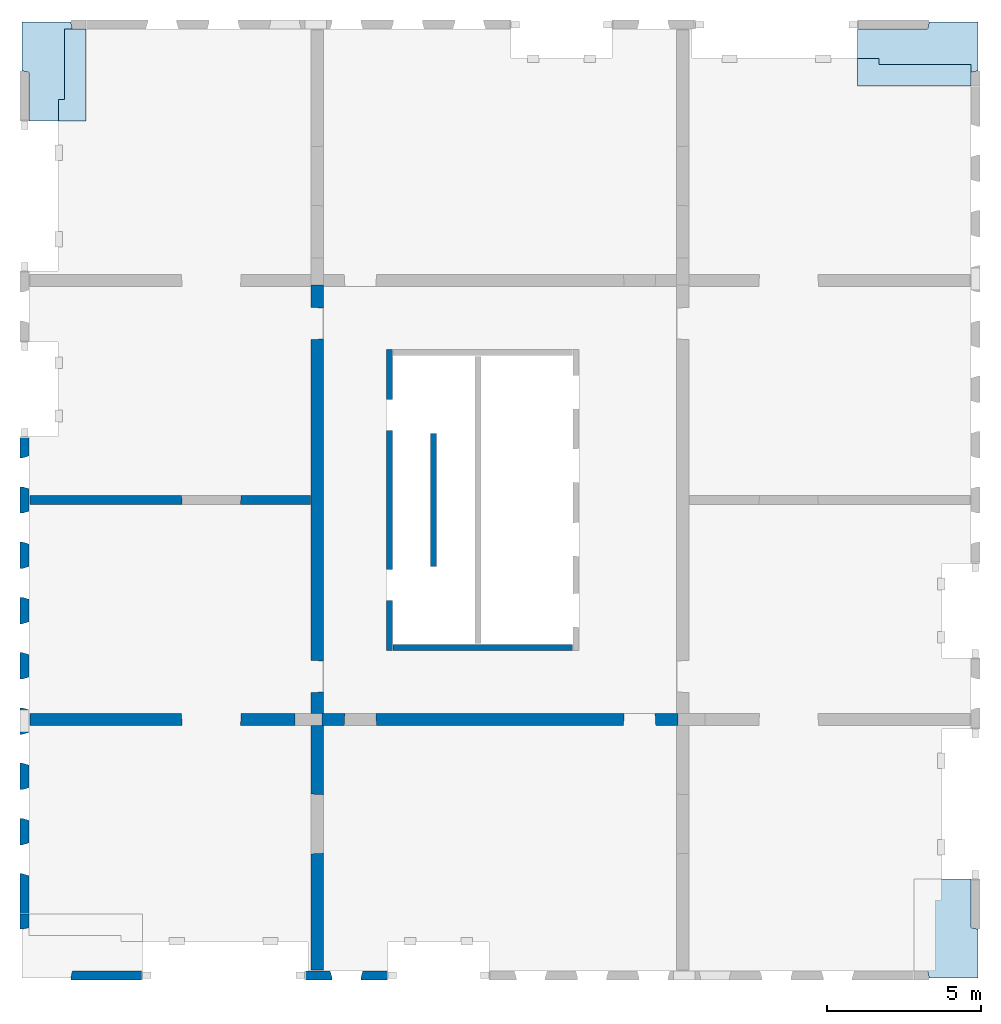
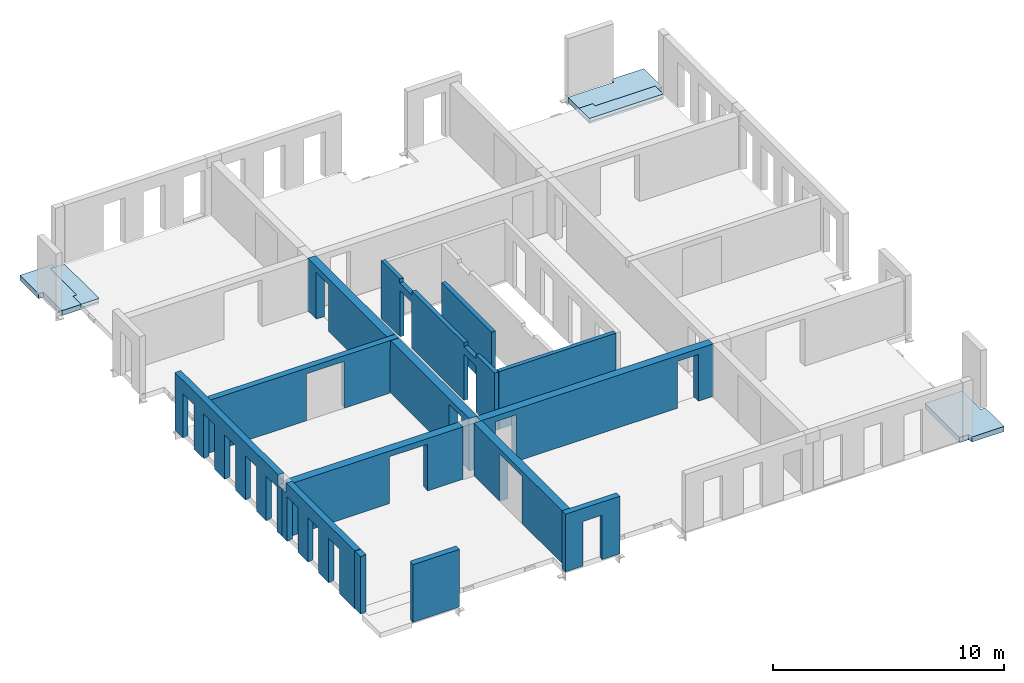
# One storey, part 2 of 4: 13 walls, 5 slabs, 26 openings.
"""IFC2X3 building model written with IfcOpenShell, lengths in millimetres."""

from ifc_helpers import new_model, entity, si_unit, converted_unit, derived_unit, direction, frame, frame_2d, origin, place, context, subcontext, project, spatial, polyline, rectangle, outline, extrude, faceted_brep, material, layer, layer_set, layer_usage, type_object, element, save


model = new_model("IFC2X3")

# Units and contexts
model_context = context("Model", 3, precision=0.01, world=origin(), true_north=direction((6.12303176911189e-17, 1.0)))
body_context = subcontext(model_context, "Body", "Model", "MODEL_VIEW")
ifc_project = project(units=[si_unit("LENGTHUNIT", "METRE", prefix="MILLI"), si_unit("AREAUNIT", "SQUARE_METRE"), si_unit("VOLUMEUNIT", "CUBIC_METRE"), converted_unit("PLANEANGLEUNIT", "DEGREE", entity("IfcRatioMeasure", 0.0174532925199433), si_unit("PLANEANGLEUNIT", "RADIAN"), dimensions=[0, 0, 0, 0, 0, 0, 0]), si_unit("MASSUNIT", "GRAM", prefix="KILO"), derived_unit("MASSDENSITYUNIT", [(si_unit("MASSUNIT", "GRAM", prefix="KILO"), 1), (si_unit("LENGTHUNIT", "METRE"), -3)]), si_unit("TIMEUNIT", "SECOND"), si_unit("FREQUENCYUNIT", "HERTZ"), si_unit("THERMODYNAMICTEMPERATUREUNIT", "DEGREE_CELSIUS"), derived_unit("THERMALTRANSMITTANCEUNIT", [(si_unit("MASSUNIT", "GRAM", prefix="KILO"), 1), (si_unit("THERMODYNAMICTEMPERATUREUNIT", "KELVIN"), -1), (si_unit("TIMEUNIT", "SECOND"), -3)]), derived_unit("VOLUMETRICFLOWRATEUNIT", [(si_unit("LENGTHUNIT", "METRE"), 3), (si_unit("TIMEUNIT", "SECOND"), -1)]), si_unit("ELECTRICCURRENTUNIT", "AMPERE"), si_unit("ELECTRICVOLTAGEUNIT", "VOLT"), si_unit("POWERUNIT", "WATT"), si_unit("FORCEUNIT", "NEWTON", prefix="KILO"), si_unit("ILLUMINANCEUNIT", "LUX"), si_unit("LUMINOUSFLUXUNIT", "LUMEN"), si_unit("LUMINOUSINTENSITYUNIT", "CANDELA"), derived_unit("USERDEFINED", [(si_unit("MASSUNIT", "GRAM", prefix="KILO"), -1), (si_unit("LENGTHUNIT", "METRE"), -2), (si_unit("TIMEUNIT", "SECOND"), 3), (si_unit("LUMINOUSFLUXUNIT", "LUMEN"), 1)]), derived_unit("LINEARVELOCITYUNIT", [(si_unit("LENGTHUNIT", "METRE"), 1), (si_unit("TIMEUNIT", "SECOND"), -1)]), si_unit("PRESSUREUNIT", "PASCAL"), derived_unit("USERDEFINED", [(si_unit("LENGTHUNIT", "METRE"), -2), (si_unit("MASSUNIT", "GRAM", prefix="KILO"), 1), (si_unit("TIMEUNIT", "SECOND"), -2)])], contexts=[model_context])

# Site, building, storey
site_placement = place(None, origin())
site = spatial("IfcSite", under=ifc_project, at=site_placement, Name="Default", CompositionType="ELEMENT")
building_placement = place(site_placement, origin())
building = spatial("IfcBuilding", under=site, at=building_placement, Name="niet gebruiken", CompositionType="ELEMENT")
storey_placement = place(building_placement, frame((0.0, 0.0, 66960.0)))
storey = spatial("IfcBuildingStorey", under=building, at=storey_placement, Name="21 eenentwintigste verdieping", CompositionType="ELEMENT", Elevation=66960.0000000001)

# Slabs
ifc_material_1 = material(Name="NLRS_f2_beton prefab")
ifc_layer_1 = layer(ifc_material_1, 270.0)
ifc_layer_set_1 = layer_set([ifc_layer_1], Name="Floor:NLRS_23.22_FL_beton prefab d=270 3D element_gen")
ifc_layer_usage_1 = layer_usage(ifc_layer_set_1, "AXIS3", "POSITIVE", 0.0)
slab_1_placement = place(storey_placement, origin())
element("IfcSlab", 1, at=slab_1_placement, inside=storey, material=ifc_layer_usage_1, Name="Floor:NLRS_23.22_FL_beton prefab d=270 3D element_gen", ObjectType="Floor:NLRS_23.22_FL_beton prefab d=270 3D element_gen", PredefinedType="LANDING", context=body_context, shape_type="SweptSolid", body=[
    extrude(outline(polyline([(-322.675940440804, -982.471394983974), (1267.47139498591, -982.471394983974), (1267.47139498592, 607.675940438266), (1034.47139498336, 655.152429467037), (1034.47139498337, 1100.5286050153), (-1955.52860501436, 1100.52860501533), (-1955.52860501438, -749.471394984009), (-370.152429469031, -749.471394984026), (-322.675940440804, -982.471394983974)])), frame((127169.471394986, 31795.5286050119, -90.0), z_axis=(0.0, 0.0, -1.0), x_axis=(0.0, 1.0, 0.0)), (0.0, 0.0, 1.0), 269.999999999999),
])
ifc_material_2 = material(Name="NLRS_f2_beton ihwg")
ifc_layer_2 = layer(ifc_material_2, 170.0)
ifc_layer_set_2 = layer_set([ifc_layer_2], Name="Floor:NLRS_23.21_FL_beton ihwg d=170_gen")
ifc_layer_usage_2 = layer_usage(ifc_layer_set_2, "AXIS3", "POSITIVE", 0.0)
slab_2_placement = place(storey_placement, origin())
element("IfcSlab", 2, at=slab_2_placement, inside=storey, material=ifc_layer_usage_2, Name="Floor:NLRS_23.21_FL_beton ihwg d=170_gen", ObjectType="Floor:NLRS_23.21_FL_beton ihwg d=170_gen", PredefinedType="FLOOR", context=body_context, shape_type="SweptSolid", body=[
    extrude(outline(polyline([(-1230.0, -366.666666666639), (-530.0, -366.666666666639), (-530.0, -166.66666666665), (1760.0, -166.666666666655), (1760.0, 533.333333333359), (-1230.0, 533.333333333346), (-1230.0, -366.666666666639)])), frame((127736.666666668, 31070.0, -90.0), z_axis=(0.0, 0.0, -1.0), x_axis=(0.0, 1.0, 0.0)), (0.0, 0.0, 1.0), 169.999999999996),
])
ifc_layer_usage_3 = layer_usage(ifc_layer_set_1, "AXIS3", "POSITIVE", 0.0)
slab_3_placement = place(storey_placement, origin())
element("IfcSlab", 3, at=slab_3_placement, inside=storey, material=ifc_layer_usage_3, Name="Floor:NLRS_23.22_FL_beton prefab d=270 3D element_gen", ObjectType="Floor:NLRS_23.22_FL_beton prefab d=270 3D element_gen", PredefinedType="LANDING", context=body_context, shape_type="SweptSolid", body=[
    extrude(outline(polyline([(-1034.47139498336, -1100.52860501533), (1955.52860501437, -1100.52860501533), (1955.52860501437, 749.471394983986), (370.152429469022, 749.471394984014), (322.675940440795, 982.471394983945), (-1267.47139498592, 982.471394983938), (-1267.47139498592, -607.675940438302), (-1034.47139498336, -655.152429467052), (-1034.47139498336, -1100.52860501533)])), frame((156330.528605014, 3204.47139498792, -90.0), z_axis=(0.0, 0.0, -1.0), x_axis=(0.0, 1.0, 0.0)), (0.0, 0.0, 1.0), 269.999999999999),
])
ifc_layer_usage_4 = layer_usage(ifc_layer_set_1, "AXIS3", "POSITIVE", 0.0)
slab_4_placement = place(storey_placement, origin())
element("IfcSlab", 4, at=slab_4_placement, inside=storey, material=ifc_layer_usage_4, Name="Floor:NLRS_23.22_FL_beton prefab d=270 3D element_gen", ObjectType="Floor:NLRS_23.22_FL_beton prefab d=270 3D element_gen", PredefinedType="LANDING", context=body_context, shape_type="SweptSolid", body=[
    extrude(outline(polyline([(-1100.52860501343, -2480.52860501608), (749.471394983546, -2480.52860501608), (749.471394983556, -195.152429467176), (982.471394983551, -147.675940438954), (982.471394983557, 1442.47139498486), (-607.675940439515, 1442.47139498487), (-655.152429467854, 1209.47139498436), (-1100.52860501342, 1209.47139498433), (-1100.52860501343, -2480.52860501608)])), frame((155870.528605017, 32080.5286050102, -90.0), z_axis=(0.0, 0.0, -1.0), x_axis=(0.0, 1.0, 0.0)), (0.0, 0.0, 1.0), 269.999999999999),
])
ifc_layer_usage_5 = layer_usage(ifc_layer_set_2, "AXIS3", "POSITIVE", 0.0)
slab_5_placement = place(storey_placement, origin())
element("IfcSlab", 5, at=slab_5_placement, inside=storey, material=ifc_layer_usage_5, Name="Floor:NLRS_23.21_FL_beton ihwg d=170_gen", ObjectType="Floor:NLRS_23.21_FL_beton ihwg d=170_gen", PredefinedType="FLOOR", context=body_context, shape_type="SweptSolid", body=[
    extrude(outline(polyline([(-533.333333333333, -1463.33333333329), (366.666666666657, -1463.33333333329), (366.666666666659, -763.333333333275), (166.66666666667, -763.333333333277), (166.666666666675, 2226.66666666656), (-533.333333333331, 2226.66666666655), (-533.333333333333, -1463.33333333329)])), frame((154853.333333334, 31513.3333333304, -90.0), z_axis=(0.0, 0.0, -1.0), x_axis=(0.0, 1.0, 0.0)), (0.0, 0.0, 1.0), 169.999999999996),
])

# Wall, openings
ifc_layer_3 = layer(ifc_material_1, 200.0)
ifc_layer_set_3 = layer_set([ifc_layer_3], Name="Basic Wall:NLRS_22.21_WA_beton prefab d=200_gen")
ifc_layer_usage_6 = layer_usage(ifc_layer_set_3, "AXIS2", "NEGATIVE", 100.0)
wall_type_1 = type_object("IfcWallType", Name="Basic Wall:NLRS_22.21_WA_beton prefab d=200_gen", PredefinedType="STANDARD", material=ifc_layer_set_3)
wall_1_placement = place(storey_placement, frame((138150.0, 22400.0, -50.0), z_axis=(0.0, 0.0, 1.0), x_axis=(0.0, -1.0, 0.0)))
wall_1 = element("IfcWallStandardCase", 6, at=wall_1_placement, inside=storey, type_object=wall_type_1, material=ifc_layer_usage_6, Name="Basic Wall:NLRS_22.21_WA_beton prefab d=200_gen", ObjectType="Basic Wall:NLRS_22.21_WA_beton prefab d=200_gen", context=body_context, shape_type="SweptSolid", body=[
    extrude(rectangle(XDim=9800.0, YDim=199.999999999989, at=frame_2d((4900.0, 3.76587649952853e-13), x_axis=(-1.0, 0.0))), origin(), (0.0, 0.0, 1.0), 3040.0),
])
opening_1_placement = place(wall_1_placement, origin())
element("IfcOpeningElement", 7, at=opening_1_placement, cuts=wall_1, Name="Basic Wall:NLRS_22.21_WA_beton prefab d=200_gen", ObjectType="Opening", context=body_context, shape_type="SweptSolid", body=[
    extrude(rectangle(XDim=199.999999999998, YDim=1044.0, at=frame_2d((4.33431068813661e-12, 0.0), x_axis=(1.0, 0.0))), frame((7672.0, -100.0, 2940.0), z_axis=(0.0, 1.0, 0.0), x_axis=(0.0, 0.0, -1.0)), (0.0, 0.0, 1.0), 199.999999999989),
])
opening_2_placement = place(wall_1_placement, origin())
element("IfcOpeningElement", 8, at=opening_2_placement, cuts=wall_1, Name="Basic Wall:NLRS_22.21_WA_beton prefab d=200_gen", ObjectType="Opening", context=body_context, shape_type="SweptSolid", body=[
    extrude(rectangle(XDim=199.999999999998, YDim=1044.0, at=frame_2d((4.33431068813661e-12, 2.1600499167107e-12), x_axis=(1.0, 0.0))), frame((2128.0, -100.0, 2940.0), z_axis=(0.0, 1.0, 0.0), x_axis=(0.0, 0.0, -1.0)), (0.0, 0.0, 1.0), 199.999999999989),
])
opening_3_placement = place(wall_1_placement, origin())
element("IfcOpeningElement", 9, at=opening_3_placement, cuts=wall_1, Name="Basic Wall:NLRS_22.21_WA_beton prefab d=200_gen", ObjectType="Opening", context=body_context, shape_type="SweptSolid", body=[
    extrude(rectangle(XDim=2435.00000000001, YDim=1015.99999999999, at=frame_2d((-4.32009983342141e-12, 1.10844666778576e-12), x_axis=(1.0, 0.0))), frame((7672.0, -100.0, 1217.50000000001), z_axis=(0.0, 1.0, 0.0), x_axis=(0.0, 0.0, -1.0)), (0.0, 0.0, 1.0), 199.999999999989),
])
opening_4_placement = place(wall_1_placement, origin())
element("IfcOpeningElement", 10, at=opening_4_placement, cuts=wall_1, Name="Basic Wall:NLRS_22.21_WA_beton prefab d=200_gen", ObjectType="Opening", context=body_context, shape_type="SweptSolid", body=[
    extrude(rectangle(XDim=2435.00000000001, YDim=1015.99999999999, at=frame_2d((-4.32009983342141e-12, -2.18847162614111e-12), x_axis=(1.0, 0.0))), frame((2128.0, -100.0, 1217.50000000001), z_axis=(0.0, 1.0, 0.0), x_axis=(0.0, 0.0, -1.0)), (0.0, 0.0, 1.0), 199.999999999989),
])

# Walls
ifc_layer_usage_7 = layer_usage(ifc_layer_set_3, "AXIS2", "NEGATIVE", 100.0)
wall_2_placement = place(storey_placement, frame((139590.0, 19660.0, -50.0), z_axis=(0.0, 0.0, 1.0), x_axis=(0.0, -1.0, 0.0)))
element("IfcWallStandardCase", 11, at=wall_2_placement, inside=storey, type_object=wall_type_1, material=ifc_layer_usage_7, Name="Basic Wall:NLRS_22.21_WA_beton prefab d=200_gen", ObjectType="Basic Wall:NLRS_22.21_WA_beton prefab d=200_gen", context=body_context, shape_type="SweptSolid", body=[
    extrude(rectangle(XDim=4320.00000000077, YDim=199.999999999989, at=frame_2d((2160.00000000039, 0.0), x_axis=(-1.0, 0.0))), origin(), (0.0, 0.0, 1.0), 3040.0),
])
ifc_layer_usage_8 = layer_usage(ifc_layer_set_3, "AXIS2", "NEGATIVE", 100.0)
wall_3_placement = place(storey_placement, frame((138270.0, 12700.0, -50.0)))
element("IfcWallStandardCase", 12, at=wall_3_placement, inside=storey, type_object=wall_type_1, material=ifc_layer_usage_8, Name="Basic Wall:NLRS_22.21_WA_beton prefab d=200_gen", ObjectType="Basic Wall:NLRS_22.21_WA_beton prefab d=200_gen", context=body_context, shape_type="SweptSolid", body=[
    extrude(rectangle(XDim=5839.99999999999, YDim=199.999999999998, at=frame_2d((2919.99999999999, -6.82121026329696e-13), x_axis=(-1.0, 0.0))), origin(), (0.0, 0.0, 1.0), 3040.0),
])

# Wall, openings
ifc_layer_4 = layer(ifc_material_1, 300.0)
ifc_layer_set_4 = layer_set([ifc_layer_4], Name="Basic Wall:NLRS_22.21_WA_beton prefab d=300_gen")
ifc_layer_usage_9 = layer_usage(ifc_layer_set_4, "AXIS2", "NEGATIVE", 150.0)
wall_type_2 = type_object("IfcWallType", Name="Basic Wall:NLRS_22.21_WA_beton prefab d=300_gen", PredefinedType="STANDARD", material=ifc_layer_set_4)
wall_4_placement = place(storey_placement, frame((126440.0, 17500.0, -70.0)))
wall_4 = element("IfcWallStandardCase", 13, at=wall_4_placement, inside=storey, type_object=wall_type_2, material=ifc_layer_usage_9, Name="Basic Wall:NLRS_22.21_WA_beton prefab d=300_gen", ObjectType="Basic Wall:NLRS_22.21_WA_beton prefab d=300_gen", context=body_context, shape_type="SweptSolid", body=[
    extrude(rectangle(XDim=9559.9999999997, YDim=300.000000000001, at=frame_2d((4779.99999999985, -5.54223333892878e-13), x_axis=(-1.0, 0.0))), origin(), (0.0, 0.0, 1.0), 2769.99999999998),
])
opening_5_placement = place(wall_4_placement, frame((4942.0, -150.0, 0.0)))
element("IfcOpeningElement", 14, at=opening_5_placement, cuts=wall_4, Name="Basic Wall:NLRS_22.21_WA_beton prefab d=300_gen", ObjectType="Opening", context=body_context, shape_type="Brep", body=[
    faceted_brep([(1918.0, 0.0, 2470.0), (18.0, 0.0, 2470.0), (18.0, 0.0, 0.0), (1918.0, 0.0, 0.0), (1936.0, 300.0, 2488.0), (1936.0, 300.0, 0.0), (0.0, 300.0, 0.0), (0.0, 300.0, 2488.0)], [[[0, 1, 2, 3]], [[4, 5, 6, 7]], [[4, 7, 1, 0]], [[7, 6, 2, 1]], [[6, 5, 3, 2]], [[5, 4, 0, 3]]]),
])
opening_6_placement = place(wall_4_placement, origin())
element("IfcOpeningElement", 15, at=opening_6_placement, cuts=wall_4, Name="Basic Wall:NLRS_22.21_WA_beton prefab d=300_gen", ObjectType="Opening", context=body_context, shape_type="SweptSolid", body=[
    extrude(rectangle(XDim=2439.99999999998, YDim=420.000000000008, at=frame_2d((0.0, 0.0), x_axis=(0.0, 1.0))), frame((9350.0, 150.0, 1220.0), z_axis=(0.0, -1.0, 0.0), x_axis=(1.0, 0.0, 0.0)), (0.0, 0.0, 1.0), 300.0),
])

# Wall, opening
ifc_layer_5 = layer(ifc_material_1, 400.0)
ifc_layer_set_5 = layer_set([ifc_layer_5], Name="Basic Wall:NLRS_22.21_WA_beton prefab d=400_gen")
ifc_layer_usage_10 = layer_usage(ifc_layer_set_5, "AXIS2", "NEGATIVE", 200.0)
wall_type_3 = type_object("IfcWallType", Name="Basic Wall:NLRS_22.21_WA_beton prefab d=400_gen", PredefinedType="STANDARD", material=ifc_layer_set_5)
wall_5_placement = place(storey_placement, frame((135800.0, 10150.0, -70.0), z_axis=(0.0, 0.0, 1.0), x_axis=(0.0, -1.0, 0.0)))
wall_5 = element("IfcWallStandardCase", 16, at=wall_5_placement, inside=storey, type_object=wall_type_3, material=ifc_layer_usage_10, Name="Basic Wall:NLRS_22.21_WA_beton prefab d=400_gen", ObjectType="Basic Wall:NLRS_22.21_WA_beton prefab d=400_gen", context=body_context, shape_type="SweptSolid", body=[
    extrude(rectangle(XDim=7959.99999999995, YDim=400.000000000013, at=frame_2d((3979.99999999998, 4.54747350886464e-13), x_axis=(-1.0, 0.0))), origin(), (0.0, 0.0, 1.0), 2770.00000000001),
])
opening_7_placement = place(wall_5_placement, frame((4174.0, -200.0, 0.0)))
element("IfcOpeningElement", 17, at=opening_7_placement, cuts=wall_5, Name="Basic Wall:NLRS_22.21_WA_beton prefab d=400_gen", ObjectType="Opening", context=body_context, shape_type="Brep", body=[
    faceted_brep([(-24.0, 400.0, 2470.0), (-24.0, 400.0, 0.0), (-1924.0, 400.0, 0.0), (-1924.0, 400.0, 2470.0), (0.0, 0.0, 2494.0), (-1948.0, 0.0, 2494.0), (-1948.0, 0.0, 0.0), (0.0, 0.0, 0.0)], [[[0, 1, 2, 3]], [[4, 5, 6, 7]], [[4, 0, 3, 5]], [[5, 3, 2, 6]], [[6, 2, 1, 7]], [[7, 1, 0, 4]]]),
])

# Wall, openings
ifc_layer_usage_11 = layer_usage(ifc_layer_set_5, "AXIS2", "NEGATIVE", 200.0)
wall_6_placement = place(storey_placement, frame((135948.750788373, 10350.0, -70.0)))
wall_6 = element("IfcWallStandardCase", 18, at=wall_6_placement, inside=storey, type_object=wall_type_3, material=ifc_layer_usage_11, Name="Basic Wall:NLRS_22.21_WA_beton prefab d=400_gen", ObjectType="Basic Wall:NLRS_22.21_WA_beton prefab d=400_gen", context=body_context, shape_type="SweptSolid", body=[
    extrude(rectangle(XDim=11601.2492116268, YDim=400.0, at=frame_2d((5800.62460581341, 1.70530256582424e-13), x_axis=(-1.0, 0.0))), origin(), (0.0, 0.0, 1.0), 2770.00000000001),
])
opening_8_placement = place(wall_6_placement, frame((727.249211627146, -200.0, 0.0)))
element("IfcOpeningElement", 19, at=opening_8_placement, cuts=wall_6, Name="Basic Wall:NLRS_22.21_WA_beton prefab d=400_gen", ObjectType="Opening", context=body_context, shape_type="Brep", body=[
    faceted_brep([(0.0, 0.0, 2472.0), (24.0, 400.0, 2448.0), (24.0, 400.0, 0.0), (0.0, 0.0, 0.0), (1030.0, 400.0, 0.0), (1054.0, 0.0, 0.0), (1030.0, 400.0, 2448.0), (1054.0, 0.0, 2472.0)], [[[0, 1, 2, 3]], [[3, 2, 4, 5]], [[6, 4, 2, 1]], [[7, 0, 3, 5]], [[7, 6, 1, 0]], [[5, 4, 6, 7]]]),
])
opening_9_placement = place(wall_6_placement, frame((9821.24921162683, -200.0, 0.0)))
element("IfcOpeningElement", 20, at=opening_9_placement, cuts=wall_6, Name="Basic Wall:NLRS_22.21_WA_beton prefab d=400_gen", ObjectType="Opening", context=body_context, shape_type="Brep", body=[
    faceted_brep([(0.0, 0.0, 2472.0), (24.0, 400.0, 2448.0), (24.0, 400.0, 0.0), (0.0, 0.0, 0.0), (1030.0, 400.0, 0.0), (1054.0, 0.0, 0.0), (1030.0, 400.0, 2448.0), (1054.0, 0.0, 2472.0)], [[[0, 1, 2, 3]], [[3, 2, 4, 5]], [[6, 4, 2, 1]], [[7, 0, 3, 5]], [[7, 6, 1, 0]], [[5, 4, 6, 7]]]),
])

# Wall, opening
ifc_layer_usage_12 = layer_usage(ifc_layer_set_5, "AXIS2", "NEGATIVE", 200.0)
wall_7_placement = place(storey_placement, frame((126440.0, 10350.0, -70.0)))
wall_7 = element("IfcWallStandardCase", 21, at=wall_7_placement, inside=storey, type_object=wall_type_3, material=ifc_layer_usage_12, Name="Basic Wall:NLRS_22.21_WA_beton prefab d=400_gen", ObjectType="Basic Wall:NLRS_22.21_WA_beton prefab d=400_gen", context=body_context, shape_type="SweptSolid", body=[
    extrude(rectangle(XDim=8628.75078837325, YDim=400.0, at=frame_2d((4314.37539418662, -2.8421709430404e-13), x_axis=(-1.0, 0.0))), origin(), (0.0, 0.0, 1.0), 2770.00000000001),
])
opening_10_placement = place(wall_7_placement, frame((4936.0, -200.0, 0.0)))
element("IfcOpeningElement", 22, at=opening_10_placement, cuts=wall_7, Name="Basic Wall:NLRS_22.21_WA_beton prefab d=400_gen", ObjectType="Opening", context=body_context, shape_type="Brep", body=[
    faceted_brep([(1924.0, 0.0, 2470.0), (24.0, 0.0, 2470.0), (24.0, 0.0, 0.0), (1924.0, 0.0, 0.0), (1948.0, 400.0, 2494.0), (1948.0, 400.0, 0.0), (0.0, 400.0, 0.0), (0.0, 400.0, 2494.0)], [[[0, 1, 2, 3]], [[4, 5, 6, 7]], [[4, 7, 1, 0]], [[7, 6, 2, 1]], [[6, 5, 3, 2]], [[5, 4, 0, 3]]]),
])

# Wall, openings
ifc_layer_usage_13 = layer_usage(ifc_layer_set_5, "AXIS2", "NEGATIVE", 200.0)
wall_8_placement = place(storey_placement, frame((135800.0, 24500.0, -70.0), z_axis=(0.0, 0.0, 1.0), x_axis=(0.0, -1.0, 0.0)))
wall_8 = element("IfcWallStandardCase", 23, at=wall_8_placement, inside=storey, type_object=wall_type_3, material=ifc_layer_usage_13, Name="Basic Wall:NLRS_22.21_WA_beton prefab d=400_gen", ObjectType="Basic Wall:NLRS_22.21_WA_beton prefab d=400_gen", context=body_context, shape_type="SweptSolid", body=[
    extrude(rectangle(XDim=13950.0, YDim=400.000000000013, at=frame_2d((6974.99999999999, 2.8421709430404e-14), x_axis=(-1.0, 0.0))), origin(), (0.0, 0.0, 1.0), 2770.00000000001),
])
opening_11_placement = place(wall_8_placement, frame((13274.0, -200.0, 0.0)))
element("IfcOpeningElement", 24, at=opening_11_placement, cuts=wall_8, Name="Basic Wall:NLRS_22.21_WA_beton prefab d=400_gen", ObjectType="Opening", context=body_context, shape_type="Brep", body=[
    faceted_brep([(-1054.0, 0.0, 2472.0), (-1030.0, 400.0, 2448.0), (-1030.0, 400.0, 0.0), (-1054.0, 0.0, 0.0), (-24.0, 400.0, 0.0), (0.0, 0.0, 0.0), (-24.0, 400.0, 2448.0), (0.0, 0.0, 2472.0)], [[[0, 1, 2, 3]], [[3, 2, 4, 5]], [[6, 4, 2, 1]], [[7, 0, 3, 5]], [[7, 6, 1, 0]], [[5, 4, 6, 7]]]),
])
opening_12_placement = place(wall_8_placement, frame((1780.0, -200.0, 0.0)))
element("IfcOpeningElement", 25, at=opening_12_placement, cuts=wall_8, Name="Basic Wall:NLRS_22.21_WA_beton prefab d=400_gen", ObjectType="Opening", context=body_context, shape_type="Brep", body=[
    faceted_brep([(-1054.0, 0.0, 2472.0), (-1030.0, 400.0, 2448.0), (-1030.0, 400.0, 0.0), (-1054.0, 0.0, 0.0), (-24.0, 400.0, 0.0), (0.0, 0.0, 0.0), (-24.0, 400.0, 2448.0), (0.0, 0.0, 2472.0)], [[[0, 1, 2, 3]], [[3, 2, 4, 5]], [[6, 4, 2, 1]], [[7, 0, 3, 5]], [[7, 6, 1, 0]], [[5, 4, 6, 7]]]),
])
opening_13_placement = place(wall_8_placement, origin())
element("IfcOpeningElement", 26, at=opening_13_placement, cuts=wall_8, Name="Basic Wall:NLRS_22.21_WA_beton prefab d=400_gen", ObjectType="Opening", context=body_context, shape_type="SweptSolid", body=[
    extrude(rectangle(XDim=350.000000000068, YDim=339.999999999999, at=frame_2d((-1.08002495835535e-12, 4.33431068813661e-12), x_axis=(0.0, 1.0))), frame((7000.0, 200.0, 2595.0), z_axis=(0.0, -1.0, 0.0), x_axis=(-1.0, 0.0, 0.0)), (0.0, 0.0, 1.0), 400.0),
])

# Wall, opening
ifc_layer_6 = layer(ifc_material_1, 300.0)
ifc_layer_set_6 = layer_set([ifc_layer_6], Name="Basic Wall:NLRS_21.21_WA_beton prefab d=300/320_gen")
ifc_layer_usage_14 = layer_usage(ifc_layer_set_6, "AXIS2", "NEGATIVE", 150.0)
wall_type_4 = type_object("IfcWallType", Name="Basic Wall:NLRS_21.21_WA_beton prefab d=300/320_gen", PredefinedType="STANDARD", material=ifc_layer_set_6)
wall_9_placement = place(storey_placement, frame((138110.0, 2020.0, -50.0), z_axis=(0.0, 0.0, 1.0), x_axis=(-1.0, 0.0, 0.0)))
wall_9 = element("IfcWallStandardCase", 27, at=wall_9_placement, inside=storey, type_object=wall_type_4, material=ifc_layer_usage_14, Name="Basic Wall:NLRS_21.21_WA_beton prefab d=300/320_gen", ObjectType="Basic Wall:NLRS_21.21_WA_beton prefab d=300/320_gen", context=body_context, shape_type="SweptSolid", body=[
    extrude(rectangle(XDim=2720.00000000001, YDim=300.0, at=frame_2d((1360.0, -8.5265128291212e-14), x_axis=(-1.0, 0.0))), origin(), (0.0, 0.0, 1.0), 3040.0),
])
opening_14_placement = place(wall_9_placement, frame((1895.0, 150.0, -20.0)))
element("IfcOpeningElement", 28, at=opening_14_placement, cuts=wall_9, Name="Basic Wall:NLRS_21.21_WA_beton prefab d=300/320_gen", ObjectType="Opening", context=body_context, shape_type="Brep", body=[
    faceted_brep([(-1070.0, -300.0, 2405.0), (-1070.0, -300.0, 0.0), (0.0, -300.0, 0.0), (0.0, -300.0, 2405.0), (-65.0, -81.0, 2370.0), (-1005.0, -81.0, 2370.0), (-65.0, -81.0, 0.0), (-1005.0, -81.0, 0.0), (-1005.0, 0.0, 0.0), (-65.0, 0.0, 0.0), (-1005.0, 0.0, 2370.0), (-65.0, 0.0, 2370.0)], [[[0, 1, 2, 3]], [[3, 4, 5, 0]], [[2, 6, 4, 3]], [[1, 7, 8, 9, 6, 2]], [[0, 5, 7, 1]], [[10, 11, 9, 8]], [[10, 5, 4, 11]], [[11, 4, 6, 9]], [[8, 7, 5, 10]]]),
])

# Wall, openings
ifc_layer_usage_15 = layer_usage(ifc_layer_set_6, "AXIS2", "NEGATIVE", 150.0)
wall_10_placement = place(storey_placement, frame((126270.0, 4040.0, -50.0), z_axis=(0.0, 0.0, 1.0), x_axis=(0.0, 1.0, 0.0)))
wall_10 = element("IfcWallStandardCase", 29, at=wall_10_placement, inside=storey, type_object=wall_type_4, material=ifc_layer_usage_15, Name="Basic Wall:NLRS_21.21_WA_beton prefab d=300/320_gen", ObjectType="Basic Wall:NLRS_21.21_WA_beton prefab d=300/320_gen", context=body_context, shape_type="SweptSolid", body=[
    extrude(rectangle(XDim=6249.99999999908, YDim=300.000000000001, at=frame_2d((3124.99999999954, 0.0), x_axis=(-1.0, 0.0))), origin(), (0.0, 0.0, 1.0), 3039.99999999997),
])
opening_15_placement = place(wall_10_placement, frame((1225.0, 150.0, -20.0)))
element("IfcOpeningElement", 30, at=opening_15_placement, cuts=wall_10, Name="Basic Wall:NLRS_21.21_WA_beton prefab d=300/320_gen", ObjectType="Opening", context=body_context, shape_type="Brep", body=[
    faceted_brep([(0.0, -300.0, 2405.0), (0.0, -300.0, 0.0), (1070.0, -300.0, 0.0), (1070.0, -300.0, 2405.0), (1005.0, -81.0, 2370.0), (65.0, -81.0, 2370.0), (1005.0, -81.0, 0.0), (65.0, -81.0, 0.0), (65.0, 0.0, 0.0), (1005.0, 0.0, 0.0), (65.0, 0.0, 2370.0), (1005.0, 0.0, 2370.0)], [[[0, 1, 2, 3]], [[3, 4, 5, 0]], [[2, 6, 4, 3]], [[1, 7, 8, 9, 6, 2]], [[0, 5, 7, 1]], [[10, 11, 9, 8]], [[10, 5, 4, 11]], [[11, 4, 6, 9]], [[8, 7, 5, 10]]]),
])
opening_16_placement = place(wall_10_placement, frame((3025.0, 150.0, -20.0)))
element("IfcOpeningElement", 31, at=opening_16_placement, cuts=wall_10, Name="Basic Wall:NLRS_21.21_WA_beton prefab d=300/320_gen", ObjectType="Opening", context=body_context, shape_type="Brep", body=[
    faceted_brep([(0.0, -300.0, 2405.0), (0.0, -300.0, 0.0), (1070.0, -300.0, 0.0), (1070.0, -300.0, 2405.0), (1005.0, -81.0, 2370.0), (65.0, -81.0, 2370.0), (1005.0, -81.0, 0.0), (65.0, -81.0, 0.0), (65.0, 0.0, 0.0), (1005.0, 0.0, 0.0), (65.0, 0.0, 2370.0), (1005.0, 0.0, 2370.0)], [[[0, 1, 2, 3]], [[3, 4, 5, 0]], [[2, 6, 4, 3]], [[1, 7, 8, 9, 6, 2]], [[0, 5, 7, 1]], [[10, 11, 9, 8]], [[10, 5, 4, 11]], [[11, 4, 6, 9]], [[8, 7, 5, 10]]]),
])
opening_17_placement = place(wall_10_placement, frame((4825.0, 150.0, -20.0)))
element("IfcOpeningElement", 32, at=opening_17_placement, cuts=wall_10, Name="Basic Wall:NLRS_21.21_WA_beton prefab d=300/320_gen", ObjectType="Opening", context=body_context, shape_type="Brep", body=[
    faceted_brep([(0.0, -300.0, 2405.0), (0.0, -300.0, 0.0), (1070.0, -300.0, 0.0), (1070.0, -300.0, 2405.0), (1005.0, -81.0, 2370.0), (65.0, -81.0, 2370.0), (1005.0, -81.0, 0.0), (65.0, -81.0, 0.0), (65.0, 0.0, 0.0), (1005.0, 0.0, 0.0), (65.0, 0.0, 2370.0), (1005.0, 0.0, 2370.0)], [[[0, 1, 2, 3]], [[3, 4, 5, 0]], [[2, 6, 4, 3]], [[1, 7, 8, 9, 6, 2]], [[0, 5, 7, 1]], [[10, 11, 9, 8]], [[10, 5, 4, 11]], [[11, 4, 6, 9]], [[8, 7, 5, 10]]]),
])
opening_18_placement = place(wall_10_placement, origin())
element("IfcOpeningElement", 33, at=opening_18_placement, cuts=wall_10, Name="Basic Wall:NLRS_21.21_WA_beton prefab d=300/320_gen", ObjectType="Opening", context=body_context, shape_type="SweptSolid", body=[
    extrude(rectangle(XDim=534.99999999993, YDim=344.999999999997, at=frame_2d((0.0, 1.08002495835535e-12), x_axis=(1.0, 0.0))), frame((6077.49999999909, 150.0, 2772.50000000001), z_axis=(0.0, -1.0, 0.0), x_axis=(0.0, 0.0, 1.0)), (0.0, 0.0, 1.0), 300.0),
])

# Wall, opening
ifc_layer_usage_16 = layer_usage(ifc_layer_set_6, "AXIS2", "NEGATIVE", 150.0)
wall_11_placement = place(storey_placement, frame((130110.0, 2020.0, -50.0), z_axis=(0.0, 0.0, 1.0), x_axis=(-1.0, 0.0, 0.0)))
wall_11 = element("IfcWallStandardCase", 34, at=wall_11_placement, inside=storey, type_object=wall_type_4, material=ifc_layer_usage_16, Name="Basic Wall:NLRS_21.21_WA_beton prefab d=300/320_gen", ObjectType="Basic Wall:NLRS_21.21_WA_beton prefab d=300/320_gen", context=body_context, shape_type="SweptSolid", body=[
    extrude(rectangle(XDim=2330.00000000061, YDim=300.0, at=frame_2d((1165.00000000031, -5.6843418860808e-14), x_axis=(-1.0, 0.0))), origin(), (0.0, 0.0, 1.0), 3040.0),
])
opening_19_placement = place(wall_11_placement, frame((2330.0, 69.0, 0.0)))
element("IfcOpeningElement", 35, at=opening_19_placement, cuts=wall_11, Name="Basic Wall:NLRS_21.21_WA_beton prefab d=300/320_gen", ObjectType="Opening", context=body_context, shape_type="Brep", body=[
    faceted_brep([(0.0, -319.0, 3040.0), (0.0, 0.0, 3040.0), (-65.0, -319.0, 3040.0), (0.0, -319.0, 0.0), (-65.0, -319.0, 0.0), (0.0, 0.0, 0.0)], [[[0, 1, 2]], [[3, 4, 5]], [[2, 4, 3, 0]], [[0, 3, 5, 1]], [[1, 5, 4, 2]]]),
])

ifc_layer_usage_17 = layer_usage(ifc_layer_set_6, "AXIS2", "NEGATIVE", 150.0)
wall_12_placement = place(storey_placement, frame((126270.0, 3530.0, -50.0), z_axis=(0.0, 0.0, 1.0), x_axis=(0.0, 1.0, 0.0)))
wall_12 = element("IfcWallStandardCase", 36, at=wall_12_placement, inside=storey, type_object=wall_type_4, material=ifc_layer_usage_17, Name="Basic Wall:NLRS_21.21_WA_beton prefab d=300/320_gen", ObjectType="Basic Wall:NLRS_21.21_WA_beton prefab d=300/320_gen", context=body_context, shape_type="SweptSolid", body=[
    extrude(rectangle(XDim=489.999999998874, YDim=300.000000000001, at=frame_2d((244.999999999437, -3.25428572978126e-12), x_axis=(-1.0, 0.0))), origin(), (0.0, 0.0, 1.0), 3040.0),
])
opening_20_placement = place(wall_12_placement, frame((-1.97405825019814e-09, 69.0, 0.0)))
element("IfcOpeningElement", 37, at=opening_20_placement, cuts=wall_12, Name="Basic Wall:NLRS_21.21_WA_beton prefab d=300/320_gen", ObjectType="Opening", context=body_context, shape_type="Brep", body=[
    faceted_brep([(0.0, -319.0, 3040.0), (65.0, -319.0, 3040.0), (0.0, 0.0, 3040.0), (0.0, -319.0, 0.0), (0.0, 0.0, 0.0), (65.0, -319.0, 0.0)], [[[0, 1, 2]], [[3, 4, 5]], [[1, 0, 3, 5]], [[0, 2, 4, 3]], [[2, 1, 5, 4]]]),
])

# Wall, openings
ifc_layer_usage_18 = layer_usage(ifc_layer_set_6, "AXIS2", "NEGATIVE", 150.0)
wall_13_placement = place(storey_placement, frame((126270.0, 10310.0, -50.0), z_axis=(0.0, 0.0, 1.0), x_axis=(0.0, 1.0, 0.0)))
wall_13 = element("IfcWallStandardCase", 38, at=wall_13_placement, inside=storey, type_object=wall_type_4, material=ifc_layer_usage_18, Name="Basic Wall:NLRS_21.21_WA_beton prefab d=300/320_gen", ObjectType="Basic Wall:NLRS_21.21_WA_beton prefab d=300/320_gen", context=body_context, shape_type="SweptSolid", body=[
    extrude(rectangle(XDim=9250.00000000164, YDim=300.000000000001, at=frame_2d((4625.00000000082, 0.0), x_axis=(-1.0, 0.0))), origin(), (0.0, 0.0, 1.0), 3040.0),
])
opening_21_placement = place(wall_13_placement, frame((7555.0, 150.0, -20.0)))
element("IfcOpeningElement", 39, at=opening_21_placement, cuts=wall_13, Name="Basic Wall:NLRS_21.21_WA_beton prefab d=300/320_gen", ObjectType="Opening", context=body_context, shape_type="Brep", body=[
    faceted_brep([(0.0, -300.0, 2405.0), (0.0, -300.0, 0.0), (1070.0, -300.0, 0.0), (1070.0, -300.0, 2405.0), (1005.0, -81.0, 2370.0), (65.0, -81.0, 2370.0), (1005.0, -81.0, 0.0), (65.0, -81.0, 0.0), (65.0, 0.0, 0.0), (1005.0, 0.0, 0.0), (65.0, 0.0, 2370.0), (1005.0, 0.0, 2370.0)], [[[0, 1, 2, 3]], [[3, 4, 5, 0]], [[2, 6, 4, 3]], [[1, 7, 8, 9, 6, 2]], [[0, 5, 7, 1]], [[10, 11, 9, 8]], [[10, 5, 4, 11]], [[11, 4, 6, 9]], [[8, 7, 5, 10]]]),
])
opening_22_placement = place(wall_13_placement, frame((3955.0, 150.0, -20.0)))
element("IfcOpeningElement", 40, at=opening_22_placement, cuts=wall_13, Name="Basic Wall:NLRS_21.21_WA_beton prefab d=300/320_gen", ObjectType="Opening", context=body_context, shape_type="Brep", body=[
    faceted_brep([(0.0, -300.0, 2405.0), (0.0, -300.0, 0.0), (1070.0, -300.0, 0.0), (1070.0, -300.0, 2405.0), (1005.0, -81.0, 2370.0), (65.0, -81.0, 2370.0), (1005.0, -81.0, 0.0), (65.0, -81.0, 0.0), (65.0, 0.0, 0.0), (1005.0, 0.0, 0.0), (65.0, 0.0, 2370.0), (1005.0, 0.0, 2370.0)], [[[0, 1, 2, 3]], [[3, 4, 5, 0]], [[2, 6, 4, 3]], [[1, 7, 8, 9, 6, 2]], [[0, 5, 7, 1]], [[10, 11, 9, 8]], [[10, 5, 4, 11]], [[11, 4, 6, 9]], [[8, 7, 5, 10]]]),
])
opening_23_placement = place(wall_13_placement, frame((2155.0, 150.0, -20.0)))
element("IfcOpeningElement", 41, at=opening_23_placement, cuts=wall_13, Name="Basic Wall:NLRS_21.21_WA_beton prefab d=300/320_gen", ObjectType="Opening", context=body_context, shape_type="Brep", body=[
    faceted_brep([(0.0, -300.0, 2405.0), (0.0, -300.0, 0.0), (1070.0, -300.0, 0.0), (1070.0, -300.0, 2405.0), (1005.0, -81.0, 2370.0), (65.0, -81.0, 2370.0), (1005.0, -81.0, 0.0), (65.0, -81.0, 0.0), (65.0, 0.0, 0.0), (1005.0, 0.0, 0.0), (65.0, 0.0, 2370.0), (1005.0, 0.0, 2370.0)], [[[0, 1, 2, 3]], [[3, 4, 5, 0]], [[2, 6, 4, 3]], [[1, 7, 8, 9, 6, 2]], [[0, 5, 7, 1]], [[10, 11, 9, 8]], [[10, 5, 4, 11]], [[11, 4, 6, 9]], [[8, 7, 5, 10]]]),
])
opening_24_placement = place(wall_13_placement, frame((5755.0, 150.0, -20.0)))
element("IfcOpeningElement", 42, at=opening_24_placement, cuts=wall_13, Name="Basic Wall:NLRS_21.21_WA_beton prefab d=300/320_gen", ObjectType="Opening", context=body_context, shape_type="Brep", body=[
    faceted_brep([(0.0, -300.0, 2405.0), (0.0, -300.0, 0.0), (1070.0, -300.0, 0.0), (1070.0, -300.0, 2405.0), (1005.0, -81.0, 2370.0), (65.0, -81.0, 2370.0), (1005.0, -81.0, 0.0), (65.0, -81.0, 0.0), (65.0, 0.0, 0.0), (1005.0, 0.0, 0.0), (65.0, 0.0, 2370.0), (1005.0, 0.0, 2370.0)], [[[0, 1, 2, 3]], [[3, 4, 5, 0]], [[2, 6, 4, 3]], [[1, 7, 8, 9, 6, 2]], [[0, 5, 7, 1]], [[10, 11, 9, 8]], [[10, 5, 4, 11]], [[11, 4, 6, 9]], [[8, 7, 5, 10]]]),
])
opening_25_placement = place(wall_13_placement, frame((355.0, 150.0, -20.0)))
element("IfcOpeningElement", 43, at=opening_25_placement, cuts=wall_13, Name="Basic Wall:NLRS_21.21_WA_beton prefab d=300/320_gen", ObjectType="Opening", context=body_context, shape_type="Brep", body=[
    faceted_brep([(1070.0, -300.0, 2405.0), (0.0, -300.0, 2405.0), (0.0, -300.0, 0.0), (1070.0, -300.0, 0.0), (1005.0, -81.0, 2370.0), (65.0, -81.0, 2370.0), (65.0, -81.0, 0.0), (65.0, 0.0, 0.0), (1005.0, 0.0, 0.0), (1005.0, -81.0, 0.0), (1005.0, 0.0, 2370.0), (65.0, 0.0, 2370.0)], [[[0, 1, 2, 3]], [[1, 0, 4, 5]], [[2, 1, 5, 6]], [[3, 2, 6, 7, 8, 9]], [[0, 3, 9, 4]], [[10, 8, 7, 11]], [[10, 11, 5, 4]], [[11, 7, 6, 5]], [[8, 10, 4, 9]]]),
])
opening_26_placement = place(wall_13_placement, origin())
element("IfcOpeningElement", 44, at=opening_26_placement, cuts=wall_13, Name="Basic Wall:NLRS_21.21_WA_beton prefab d=300/320_gen", ObjectType="Opening", context=body_context, shape_type="SweptSolid", body=[
    extrude(rectangle(XDim=534.999999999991, YDim=345.000000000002, at=frame_2d((1.08002495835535e-12, 4.32009983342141e-12), x_axis=(0.0, 1.0))), frame((172.500000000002, 150.0, 2772.50000000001), z_axis=(0.0, -1.0, 0.0), x_axis=(-1.0, 0.0, 0.0)), (0.0, 0.0, 1.0), 300.0),
])

save(model, "model.ifc")
